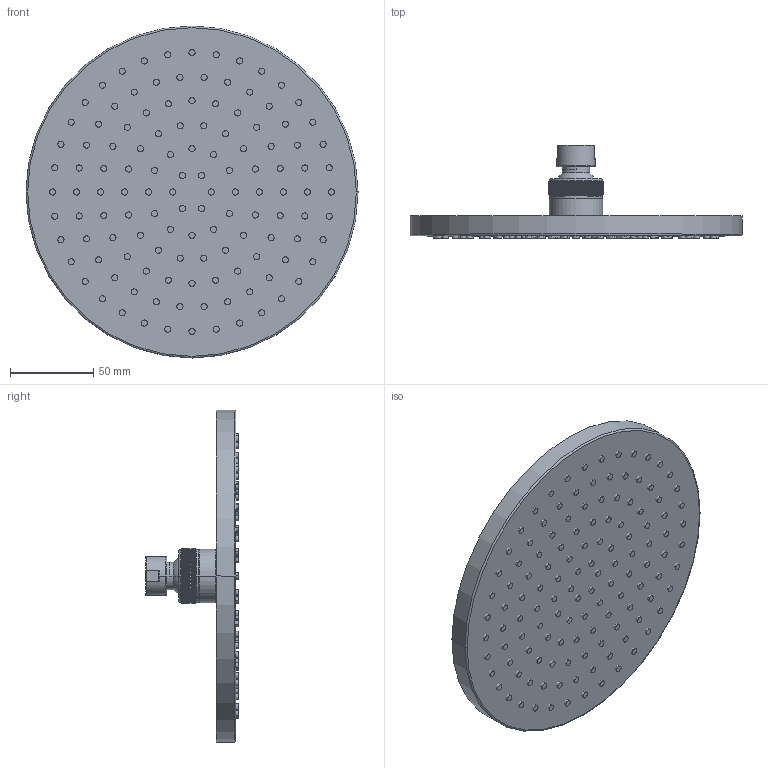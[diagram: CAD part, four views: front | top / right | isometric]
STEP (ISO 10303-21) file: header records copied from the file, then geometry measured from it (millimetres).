
FILE_DESCRIPTION((''),'2;1');
FILE_NAME('76569--00_SW0001','2026-09-10T14:14:50',('simi1'),(''),'CREO PARAMETRIC BY PTC INC, 2022244','CREO PARAMETRIC BY PTC INC, 2022244','');
FILE_SCHEMA(('CONFIG_CONTROL_DESIGN'));
Length unit declared in the file: millimetre
Products named in the file (1): 76569--00_SW0001
Bounding box: 200 x 56 x 200 mm (x, y, z)
Surface area: 81539 mm2 (no closed solid volume)
Topology: 0 solids, 130 shells, 743 faces, 1944 edges, 1286 vertices
Faces by surface type: cylinder 390, plane 333, torus 12, cone 6, sphere 2
Entity records: 23661 total; most frequent: CARTESIAN_POINT 6061, DIRECTION 3752, ORIENTED_EDGE 3454, EDGE_CURVE 1944, AXIS2_PLACEMENT_3D 1553, VERTEX_POINT 1286, CIRCLE 810, EDGE_LOOP 743
